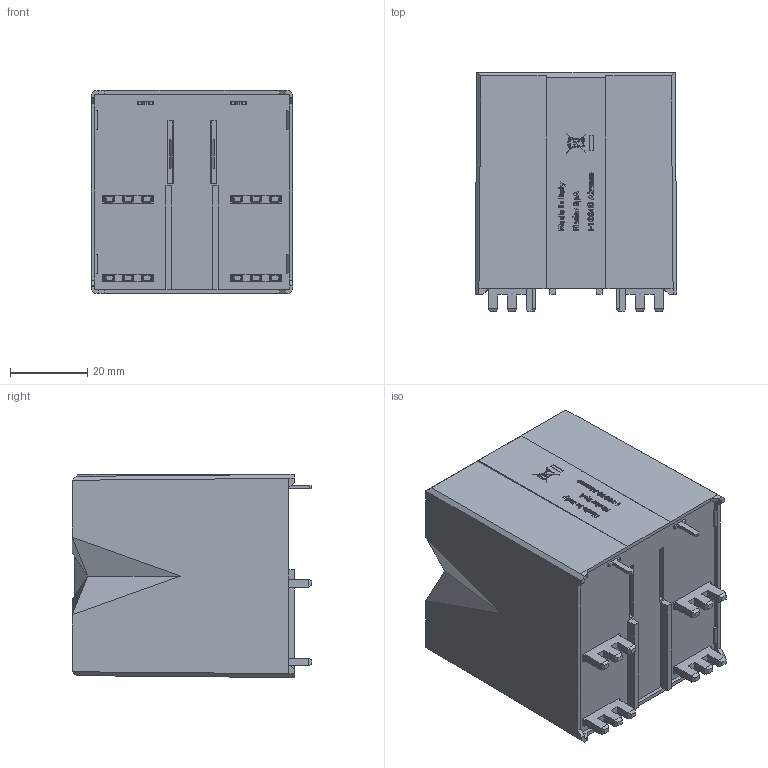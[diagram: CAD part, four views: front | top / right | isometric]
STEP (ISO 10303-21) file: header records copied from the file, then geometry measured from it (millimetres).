
FILE_DESCRIPTION(/* description */ ('Unknown'),/* implementation_level */ '2;1');
FILE_NAME(/* name */ '6822',/* time_stamp */ '2021-10-25T17:44:14+02:00',/* author */ ('Unknown'),/* organization */ ('Unknown'),/* preprocessor_version */ 'ST-DEVELOPER v16.7',/* originating_system */ 'DEX',/* authorisation */ $);
FILE_SCHEMA (('AUTOMOTIVE_DESIGN {1 0 10303 214 3 1 1}'));
Length unit declared in the file: millimetre
Products named in the file (1): 6822
Bounding box: 52.2 x 61.95 x 52.5 mm (x, y, z)
Surface area: 22048.8 mm2 (no closed solid volume)
Topology: 0 solids, 9 shells, 693 faces, 1873 edges, 1249 vertices
Faces by surface type: plane 573, bspline 70, cylinder 46, cone 2, torus 2
Full cylindrical faces by diameter (mm): 0.252 x1, 0.374 x2, 1.5 x2
Entity records: 23940 total; most frequent: CARTESIAN_POINT 7051, ORIENTED_EDGE 3518, DIRECTION 3051, EDGE_CURVE 1841, LINE 1603, VECTOR 1603, VERTEX_POINT 1241, EDGE_LOOP 788
